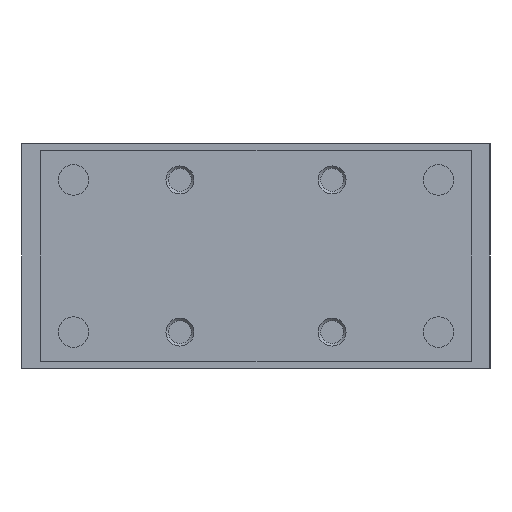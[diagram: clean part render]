
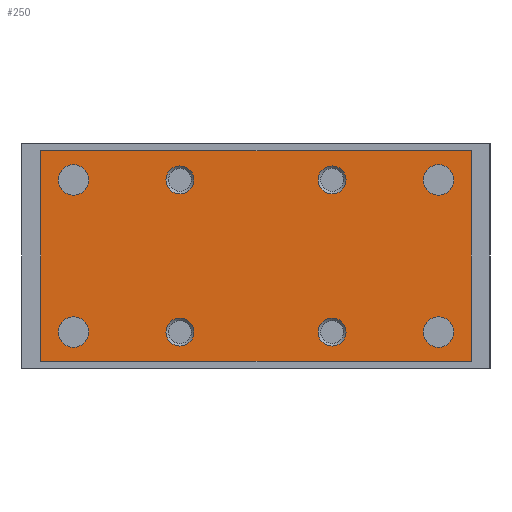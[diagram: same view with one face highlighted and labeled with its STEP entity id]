
A CAD part, left-side view. The second image highlights one B-rep face of the part: STEP entity #250.
In plain terms, the highlighted planar face has unit normal (-1, 0, 0).
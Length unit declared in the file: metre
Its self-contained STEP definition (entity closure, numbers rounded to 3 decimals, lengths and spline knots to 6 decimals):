
#250 = ADVANCED_FACE( '', ( #694, #695, #696, #697, #698, #699, #700, #701, #702 ), #703, .T. );
#694 = FACE_BOUND( '', #1514, .T. );
#695 = FACE_BOUND( '', #1515, .T. );
#696 = FACE_BOUND( '', #1516, .T. );
#697 = FACE_BOUND( '', #1517, .T. );
#698 = FACE_BOUND( '', #1518, .T. );
#699 = FACE_BOUND( '', #1519, .T. );
#700 = FACE_BOUND( '', #1520, .T. );
#701 = FACE_BOUND( '', #1521, .T. );
#702 = FACE_OUTER_BOUND( '', #1522, .T. );
#703 = PLANE( '', #1523 );
#1514 = EDGE_LOOP( '', ( #2342 ) );
#1515 = EDGE_LOOP( '', ( #2343 ) );
#1516 = EDGE_LOOP( '', ( #2344 ) );
#1517 = EDGE_LOOP( '', ( #2345 ) );
#1518 = EDGE_LOOP( '', ( #2346 ) );
#1519 = EDGE_LOOP( '', ( #2347 ) );
#1520 = EDGE_LOOP( '', ( #2348 ) );
#1521 = EDGE_LOOP( '', ( #2349 ) );
#1522 = EDGE_LOOP( '', ( #2350, #2351, #2352, #2353 ) );
#1523 = AXIS2_PLACEMENT_3D( '', #2354, #2355, #2356 );
#2342 = ORIENTED_EDGE( '', *, *, #3797, .F. );
#2343 = ORIENTED_EDGE( '', *, *, #3798, .F. );
#2344 = ORIENTED_EDGE( '', *, *, #3799, .F. );
#2345 = ORIENTED_EDGE( '', *, *, #3800, .F. );
#2346 = ORIENTED_EDGE( '', *, *, #3801, .T. );
#2347 = ORIENTED_EDGE( '', *, *, #3802, .F. );
#2348 = ORIENTED_EDGE( '', *, *, #3803, .F. );
#2349 = ORIENTED_EDGE( '', *, *, #3804, .T. );
#2350 = ORIENTED_EDGE( '', *, *, #3805, .T. );
#2351 = ORIENTED_EDGE( '', *, *, #3806, .T. );
#2352 = ORIENTED_EDGE( '', *, *, #3807, .T. );
#2353 = ORIENTED_EDGE( '', *, *, #3808, .T. );
#2354 = CARTESIAN_POINT( '', ( -0.06225, -0.046, -0.0015 ) );
#2355 = DIRECTION( '', ( -1., 0., 0. ) );
#2356 = DIRECTION( '', ( 0., 0., 1. ) );
#3797 = EDGE_CURVE( '', #4349, #4349, #4350, .T. );
#3798 = EDGE_CURVE( '', #4351, #4351, #4352, .T. );
#3799 = EDGE_CURVE( '', #4353, #4353, #4354, .T. );
#3800 = EDGE_CURVE( '', #4355, #4355, #4356, .T. );
#3801 = EDGE_CURVE( '', #4357, #4357, #4358, .T. );
#3802 = EDGE_CURVE( '', #4359, #4359, #4360, .T. );
#3803 = EDGE_CURVE( '', #4361, #4361, #4362, .T. );
#3804 = EDGE_CURVE( '', #4363, #4363, #4364, .T. );
#3805 = EDGE_CURVE( '', #4365, #4366, #4367, .T. );
#3806 = EDGE_CURVE( '', #4366, #4368, #4369, .T. );
#3807 = EDGE_CURVE( '', #4368, #4370, #4371, .T. );
#3808 = EDGE_CURVE( '', #4370, #4365, #4372, .T. );
#4349 = VERTEX_POINT( '', #5173 );
#4350 = CIRCLE( '', #5174, 0.00325 );
#4351 = VERTEX_POINT( '', #5175 );
#4352 = CIRCLE( '', #5176, 0.00325 );
#4353 = VERTEX_POINT( '', #5177 );
#4354 = CIRCLE( '', #5178, 0.00325 );
#4355 = VERTEX_POINT( '', #5179 );
#4356 = CIRCLE( '', #5180, 0.00325 );
#4357 = VERTEX_POINT( '', #5181 );
#4358 = CIRCLE( '', #5182, 0.003 );
#4359 = VERTEX_POINT( '', #5183 );
#4360 = CIRCLE( '', #5184, 0.003 );
#4361 = VERTEX_POINT( '', #5185 );
#4362 = CIRCLE( '', #5186, 0.003 );
#4363 = VERTEX_POINT( '', #5187 );
#4364 = CIRCLE( '', #5188, 0.003 );
#4365 = VERTEX_POINT( '', #5189 );
#4366 = VERTEX_POINT( '', #5190 );
#4367 = LINE( '', #5191, #5192 );
#4368 = VERTEX_POINT( '', #5193 );
#4369 = LINE( '', #5194, #5195 );
#4370 = VERTEX_POINT( '', #5196 );
#4371 = LINE( '', #5197, #5198 );
#4372 = LINE( '', #5199, #5200 );
#5173 = CARTESIAN_POINT( '', ( -0.06225, -0.04225, -0.04025 ) );
#5174 = AXIS2_PLACEMENT_3D( '', #6242, #6243, #6244 );
#5175 = CARTESIAN_POINT( '', ( -0.06225, 0.03575, -0.04025 ) );
#5176 = AXIS2_PLACEMENT_3D( '', #6245, #6246, #6247 );
#5177 = CARTESIAN_POINT( '', ( -0.06225, -0.04225, -0.00775 ) );
#5178 = AXIS2_PLACEMENT_3D( '', #6248, #6249, #6250 );
#5179 = CARTESIAN_POINT( '', ( -0.06225, 0.03575, -0.00775 ) );
#5180 = AXIS2_PLACEMENT_3D( '', #6251, #6252, #6253 );
#5181 = CARTESIAN_POINT( '', ( -0.06225, -0.01625, -0.03725 ) );
#5182 = AXIS2_PLACEMENT_3D( '', #6254, #6255, #6256 );
#5183 = CARTESIAN_POINT( '', ( -0.06225, 0.01625, -0.03725 ) );
#5184 = AXIS2_PLACEMENT_3D( '', #6257, #6258, #6259 );
#5185 = CARTESIAN_POINT( '', ( -0.06225, -0.01625, -0.01075 ) );
#5186 = AXIS2_PLACEMENT_3D( '', #6260, #6261, #6262 );
#5187 = CARTESIAN_POINT( '', ( -0.06225, 0.01625, -0.01075 ) );
#5188 = AXIS2_PLACEMENT_3D( '', #6263, #6264, #6265 );
#5189 = CARTESIAN_POINT( '', ( -0.06225, -0.046, -0.0465 ) );
#5190 = CARTESIAN_POINT( '', ( -0.06225, -0.046, -0.0015 ) );
#5191 = CARTESIAN_POINT( '', ( -0.06225, -0.046, -0.0465 ) );
#5192 = VECTOR( '', #6266, 1. );
#5193 = CARTESIAN_POINT( '', ( -0.06225, 0.046, -0.0015 ) );
#5194 = CARTESIAN_POINT( '', ( -0.06225, -0.046, -0.0015 ) );
#5195 = VECTOR( '', #6267, 1. );
#5196 = CARTESIAN_POINT( '', ( -0.06225, 0.046, -0.0465 ) );
#5197 = CARTESIAN_POINT( '', ( -0.06225, 0.046, -0.0015 ) );
#5198 = VECTOR( '', #6268, 1. );
#5199 = CARTESIAN_POINT( '', ( -0.06225, 0.046, -0.0465 ) );
#5200 = VECTOR( '', #6269, 1. );
#6242 = CARTESIAN_POINT( '', ( -0.06225, -0.039, -0.04025 ) );
#6243 = DIRECTION( '', ( -1., 0., 0. ) );
#6244 = DIRECTION( '', ( 0., -1., 0. ) );
#6245 = CARTESIAN_POINT( '', ( -0.06225, 0.039, -0.04025 ) );
#6246 = DIRECTION( '', ( -1., 0., 0. ) );
#6247 = DIRECTION( '', ( 0., -1., 0. ) );
#6248 = CARTESIAN_POINT( '', ( -0.06225, -0.039, -0.00775 ) );
#6249 = DIRECTION( '', ( -1., 0., 0. ) );
#6250 = DIRECTION( '', ( 0., -1., 0. ) );
#6251 = CARTESIAN_POINT( '', ( -0.06225, 0.039, -0.00775 ) );
#6252 = DIRECTION( '', ( -1., 0., 0. ) );
#6253 = DIRECTION( '', ( 0., -1., 0. ) );
#6254 = CARTESIAN_POINT( '', ( -0.06225, -0.01625, -0.04025 ) );
#6255 = DIRECTION( '', ( 1., 0., 0. ) );
#6256 = DIRECTION( '', ( 0., 0., 1. ) );
#6257 = CARTESIAN_POINT( '', ( -0.06225, 0.01625, -0.04025 ) );
#6258 = DIRECTION( '', ( -1., 0., 0. ) );
#6259 = DIRECTION( '', ( 0., 0., 1. ) );
#6260 = CARTESIAN_POINT( '', ( -0.06225, -0.01625, -0.00775 ) );
#6261 = DIRECTION( '', ( -1., 0., 0. ) );
#6262 = DIRECTION( '', ( 0., 0., -1. ) );
#6263 = CARTESIAN_POINT( '', ( -0.06225, 0.01625, -0.00775 ) );
#6264 = DIRECTION( '', ( 1., 0., 0. ) );
#6265 = DIRECTION( '', ( 0., 0., -1. ) );
#6266 = DIRECTION( '', ( 0., 0., 1. ) );
#6267 = DIRECTION( '', ( 0., 1., 0. ) );
#6268 = DIRECTION( '', ( 0., 0., -1. ) );
#6269 = DIRECTION( '', ( 0., -1., 0. ) );
